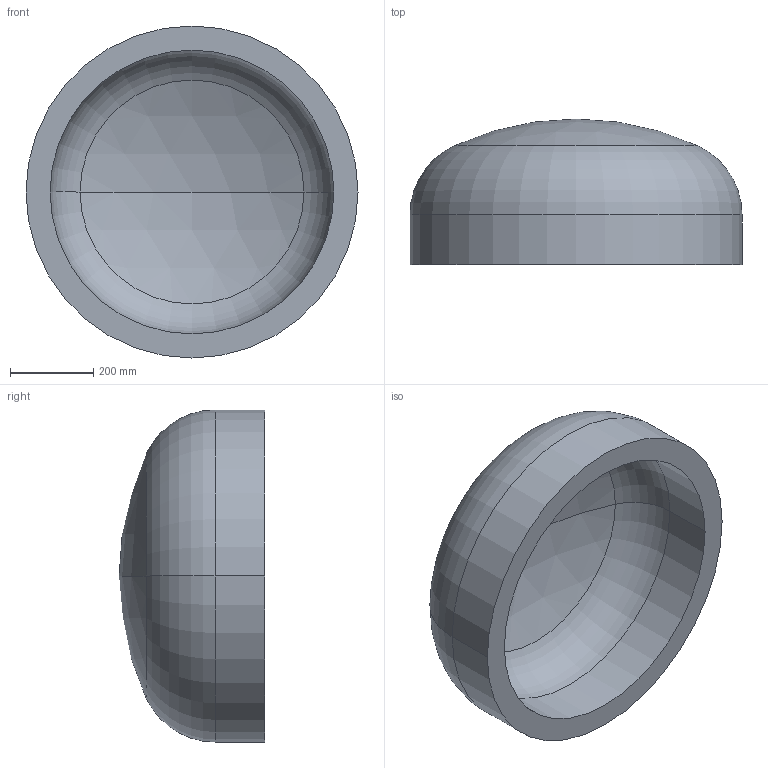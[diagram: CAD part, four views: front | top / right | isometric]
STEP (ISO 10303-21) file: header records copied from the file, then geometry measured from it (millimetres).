
FILE_DESCRIPTION (( 'STEP AP203' ), '1' );
FILE_NAME ('DIN 28013 Korbbogenform_-_Boden DIN 28013 - 800 x 120 - I - s=58.step', '2016-07-01T08:19:16', ( '' ), ( '' ), 'SwSTEP 2.0', 'SolidWorks 2013', '' );
FILE_SCHEMA (( 'CONFIG_CONTROL_DESIGN' ));
Length unit declared in the file: millimetre
Products named in the file (1): DIN 28013 Korbbogenform_-_Boden DIN 28013 - 800 x 120 - I - s=58
Bounding box: 800 x 350.95 x 800 mm (x, y, z)
Volume: 53182988.6 mm3; surface area: 1976143 mm2
Topology: 1 solids, 1 shells, 13 faces, 24 edges, 14 vertices
Faces by surface type: torus 4, cylinder 4, sphere 4, plane 1
Entity records: 407 total; most frequent: DIRECTION 72, CARTESIAN_POINT 52, ORIENTED_EDGE 48, AXIS2_PLACEMENT_3D 34, EDGE_CURVE 24, CIRCLE 20, EDGE_LOOP 14, VERTEX_POINT 14
